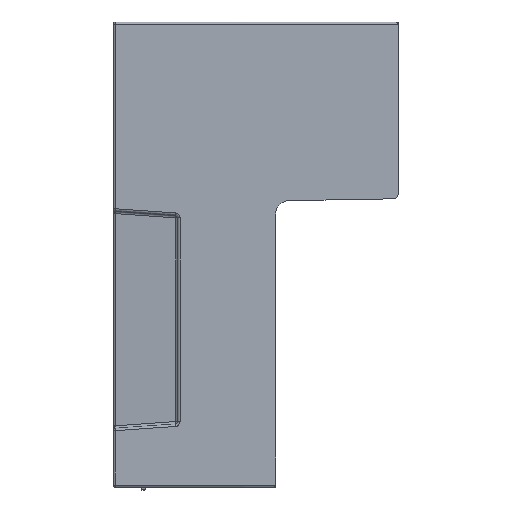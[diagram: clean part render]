
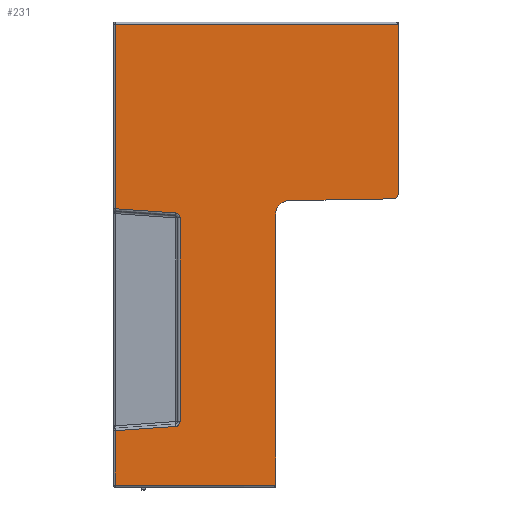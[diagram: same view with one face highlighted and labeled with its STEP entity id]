
A CAD part, left-side view. The second image highlights one B-rep face of the part: STEP entity #231.
In plain terms, the highlighted planar face has unit normal (-1, 0, 0).
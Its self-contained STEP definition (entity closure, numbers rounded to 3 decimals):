
#231=ADVANCED_FACE('',(#597),#470,.F.);
#470=PLANE('',#4563);
#597=FACE_OUTER_BOUND('',#923,.T.);
#923=EDGE_LOOP('',(#1565,#1566,#1567,#1568,#1569,#1570,#1571,#1572,#1573,
#1574,#1575,#1576,#1577,#1578));
#1201=CIRCLE('',#4559,2.);
#1202=CIRCLE('',#4560,2.);
#1203=CIRCLE('',#4561,2.);
#1204=CIRCLE('',#4562,5.5);
#1565=ORIENTED_EDGE('',*,*,#3196,.T.);
#1566=ORIENTED_EDGE('',*,*,#3197,.T.);
#1567=ORIENTED_EDGE('',*,*,#3198,.F.);
#1568=ORIENTED_EDGE('',*,*,#3199,.T.);
#1569=ORIENTED_EDGE('',*,*,#3200,.T.);
#1570=ORIENTED_EDGE('',*,*,#3201,.T.);
#1571=ORIENTED_EDGE('',*,*,#3202,.F.);
#1572=ORIENTED_EDGE('',*,*,#3203,.T.);
#1573=ORIENTED_EDGE('',*,*,#3204,.F.);
#1574=ORIENTED_EDGE('',*,*,#3205,.T.);
#1575=ORIENTED_EDGE('',*,*,#3206,.T.);
#1576=ORIENTED_EDGE('',*,*,#3207,.T.);
#1577=ORIENTED_EDGE('',*,*,#3208,.T.);
#1578=ORIENTED_EDGE('',*,*,#3209,.T.);
#2776=VERTEX_POINT('',#6622);
#2777=VERTEX_POINT('',#6623);
#2778=VERTEX_POINT('',#6625);
#2779=VERTEX_POINT('',#6627);
#2780=VERTEX_POINT('',#6629);
#2781=VERTEX_POINT('',#6631);
#2782=VERTEX_POINT('',#6633);
#2783=VERTEX_POINT('',#6635);
#2784=VERTEX_POINT('',#6637);
#2785=VERTEX_POINT('',#6639);
#2786=VERTEX_POINT('',#6641);
#2787=VERTEX_POINT('',#6643);
#2788=VERTEX_POINT('',#6645);
#2789=VERTEX_POINT('',#6647);
#3196=EDGE_CURVE('',#2776,#2777,#3769,.T.);
#3197=EDGE_CURVE('',#2777,#2778,#1201,.T.);
#3198=EDGE_CURVE('',#2779,#2778,#3770,.T.);
#3199=EDGE_CURVE('',#2779,#2780,#3771,.T.);
#3200=EDGE_CURVE('',#2780,#2781,#3772,.T.);
#3201=EDGE_CURVE('',#2781,#2782,#3773,.T.);
#3202=EDGE_CURVE('',#2783,#2782,#1202,.T.);
#3203=EDGE_CURVE('',#2783,#2784,#3774,.T.);
#3204=EDGE_CURVE('',#2785,#2784,#1203,.T.);
#3205=EDGE_CURVE('',#2785,#2786,#3775,.T.);
#3206=EDGE_CURVE('',#2786,#2787,#3776,.T.);
#3207=EDGE_CURVE('',#2787,#2788,#3777,.T.);
#3208=EDGE_CURVE('',#2788,#2789,#3778,.T.);
#3209=EDGE_CURVE('',#2789,#2776,#1204,.T.);
#3769=LINE('',#6621,#4217);
#3770=LINE('',#6626,#4218);
#3771=LINE('',#6628,#4219);
#3772=LINE('',#6630,#4220);
#3773=LINE('',#6632,#4221);
#3774=LINE('',#6636,#4222);
#3775=LINE('',#6640,#4223);
#3776=LINE('',#6642,#4224);
#3777=LINE('',#6644,#4225);
#3778=LINE('',#6646,#4226);
#4217=VECTOR('',#5221,1.);
#4218=VECTOR('',#5224,1.);
#4219=VECTOR('',#5225,1.);
#4220=VECTOR('',#5226,1.);
#4221=VECTOR('',#5227,1.);
#4222=VECTOR('',#5230,1.);
#4223=VECTOR('',#5233,1.);
#4224=VECTOR('',#5234,1.);
#4225=VECTOR('',#5235,1.);
#4226=VECTOR('',#5236,1.);
#4559=AXIS2_PLACEMENT_3D('',#6624,#5222,#5223);
#4560=AXIS2_PLACEMENT_3D('',#6634,#5228,#5229);
#4561=AXIS2_PLACEMENT_3D('',#6638,#5231,#5232);
#4562=AXIS2_PLACEMENT_3D('',#6648,#5237,#5238);
#4563=AXIS2_PLACEMENT_3D('',#6649,#5239,#5240);
#5221=DIRECTION('',(0.,-1.,0.017));
#5222=DIRECTION('',(-1.,0.,0.));
#5223=DIRECTION('',(0.,1.,0.));
#5224=DIRECTION('',(0.,0.,-1.));
#5225=DIRECTION('',(0.,1.,0.));
#5226=DIRECTION('',(0.,0.,-1.));
#5227=DIRECTION('',(0.,-0.998,-0.07));
#5228=DIRECTION('',(-1.,0.,0.));
#5229=DIRECTION('',(0.,1.,0.));
#5230=DIRECTION('',(0.,0.,-1.));
#5231=DIRECTION('',(-1.,0.,0.));
#5232=DIRECTION('',(0.,1.,0.));
#5233=DIRECTION('',(0.,0.998,-0.07));
#5234=DIRECTION('',(0.,0.,-1.));
#5235=DIRECTION('',(0.,-1.,0.));
#5236=DIRECTION('',(0.,0.,1.));
#5237=DIRECTION('',(1.,0.,0.));
#5238=DIRECTION('',(0.,1.,0.));
#5239=DIRECTION('',(1.,0.,0.));
#5240=DIRECTION('',(0.,1.,0.));
#6621=CARTESIAN_POINT('',(0.,114.706,115.871));
#6622=CARTESIAN_POINT('',(0.,44.596,117.094));
#6623=CARTESIAN_POINT('',(0.,1.965,117.838));
#6624=CARTESIAN_POINT('',(0.,2.,119.838));
#6625=CARTESIAN_POINT('',(0.,0.,119.838));
#6626=CARTESIAN_POINT('',(0.,0.,190.));
#6627=CARTESIAN_POINT('',(0.,0.,189.));
#6628=CARTESIAN_POINT('',(0.,116.,189.));
#6629=CARTESIAN_POINT('',(0.,115.5,189.));
#6630=CARTESIAN_POINT('',(0.,115.5,190.));
#6631=CARTESIAN_POINT('',(0.,115.5,113.786));
#6632=CARTESIAN_POINT('',(0.,121.301,114.191));
#6633=CARTESIAN_POINT('',(0.,90.86,112.063));
#6634=CARTESIAN_POINT('',(0.,91.,110.067));
#6635=CARTESIAN_POINT('',(0.,89.,110.067));
#6636=CARTESIAN_POINT('',(0.,89.,190.));
#6637=CARTESIAN_POINT('',(0.,89.,26.933));
#6638=CARTESIAN_POINT('',(0.,91.,26.933));
#6639=CARTESIAN_POINT('',(0.,90.86,24.937));
#6640=CARTESIAN_POINT('',(0.,104.392,23.991));
#6641=CARTESIAN_POINT('',(0.,115.5,23.214));
#6642=CARTESIAN_POINT('',(0.,115.5,190.));
#6643=CARTESIAN_POINT('',(0.,115.5,1.));
#6644=CARTESIAN_POINT('',(0.,116.,1.));
#6645=CARTESIAN_POINT('',(0.,50.,1.));
#6646=CARTESIAN_POINT('',(0.,50.,0.));
#6647=CARTESIAN_POINT('',(0.,50.,111.595));
#6648=CARTESIAN_POINT('',(0.,44.5,111.595));
#6649=CARTESIAN_POINT('',(0.,116.,190.));
